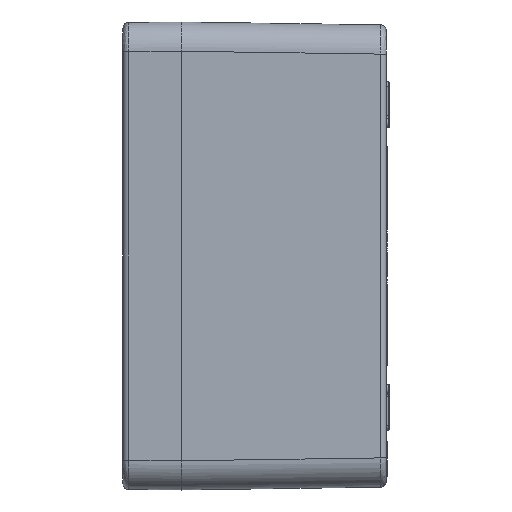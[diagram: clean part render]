
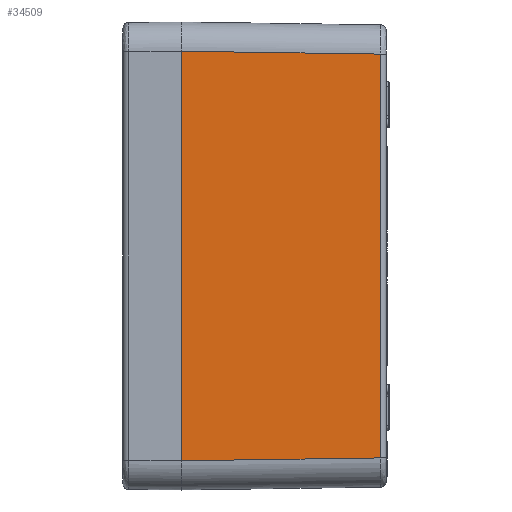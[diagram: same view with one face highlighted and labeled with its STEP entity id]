
A CAD part, left-side view. The second image highlights one B-rep face of the part: STEP entity #34509.
In plain terms, the highlighted planar face has unit normal (-1, -0.014, 0) as drawn and (1, -0.014, 0) by its records, which use the part's own axes.
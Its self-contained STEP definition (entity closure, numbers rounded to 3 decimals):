
#7788=DIRECTION('',(0.,0.,1.));
#7789=VECTOR('',#7788,140.002);
#7790=CARTESIAN_POINT('',(130.,0.,-70.001));
#7791=LINE('',#7790,#7789);
#7801=CARTESIAN_POINT('',(130.,0.,70.001));
#13676=DIRECTION('',(0.014,1.,0.014));
#13677=VECTOR('',#13676,68.042);
#13678=CARTESIAN_POINT('',(129.028,-68.029,
69.029));
#13679=LINE('',#13678,#13677);
#13683=DIRECTION('',(0.014,1.,-0.014));
#13684=VECTOR('',#13683,68.042);
#13685=CARTESIAN_POINT('',(129.028,-68.029,
-69.029));
#13686=LINE('',#13685,#13684);
#13690=DIRECTION('',(0.,0.,1.));
#13691=VECTOR('',#13690,138.058);
#13692=CARTESIAN_POINT('',(129.028,-68.029,
-69.029));
#13693=LINE('',#13692,#13691);
#21476=VERTEX_POINT('',#7801);
#21477=CARTESIAN_POINT('',(129.028,-68.029,
69.029));
#21478=VERTEX_POINT('',#21477);
#21483=CARTESIAN_POINT('',(130.,0.,-70.001));
#21484=VERTEX_POINT('',#21483);
#21485=CARTESIAN_POINT('',(129.028,-68.029,
-69.029));
#21486=VERTEX_POINT('',#21485);
#34496=CARTESIAN_POINT('',(129.5,-35.,0.));
#34497=DIRECTION('',(1.,-0.014,0.));
#34498=DIRECTION('',(0.014,1.,0.));
#34499=AXIS2_PLACEMENT_3D('',#34496,#34497,#34498);
#34500=PLANE('',#34499);
#34501=ORIENTED_EDGE('',*,*,#34481,.T.);
#34502=ORIENTED_EDGE('',*,*,#26008,.F.);
#34504=ORIENTED_EDGE('',*,*,#34503,.F.);
#34506=ORIENTED_EDGE('',*,*,#34505,.T.);
#34507=EDGE_LOOP('',(#34501,#34502,#34504,#34506));
#34508=FACE_OUTER_BOUND('',#34507,.F.);
#26008=EDGE_CURVE('',#21484,#21476,#7791,.T.);
#34481=EDGE_CURVE('',#21478,#21476,#13679,.T.);
#34503=EDGE_CURVE('',#21486,#21484,#13686,.T.);
#34505=EDGE_CURVE('',#21486,#21478,#13693,.T.);
#34509=ADVANCED_FACE('',(#34508),#34500,.T.);
